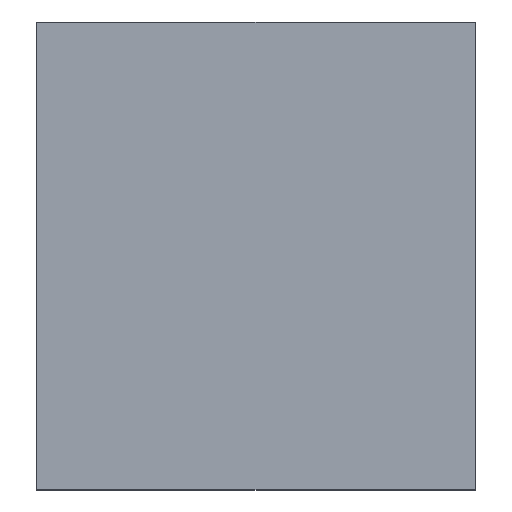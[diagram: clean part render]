
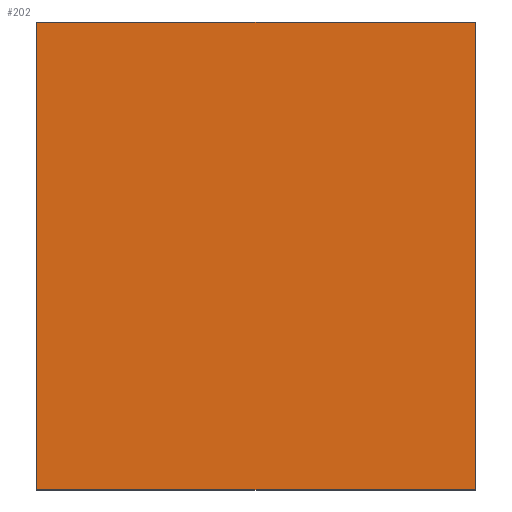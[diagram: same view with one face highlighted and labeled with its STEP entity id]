
A CAD part, top view. The second image highlights one B-rep face of the part: STEP entity #202.
In plain terms, the highlighted planar face has unit normal (0, 0, 1).
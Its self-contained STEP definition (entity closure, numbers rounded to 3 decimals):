
#9 = EDGE_CURVE ( 'NONE', #39, #41, #172, .T. ) ;
#12 = EDGE_CURVE ( 'NONE', #42, #39, #169, .T. ) ;
#13 = EDGE_CURVE ( 'NONE', #41, #43, #191, .T. ) ;
#15 = EDGE_CURVE ( 'NONE', #43, #42, #154, .T. ) ;
#29 = AXIS2_PLACEMENT_3D ( 'NONE', #124, #63, #62 ) ;
#39 = VERTEX_POINT ( 'NONE', #72 ) ;
#41 = VERTEX_POINT ( 'NONE', #71 ) ;
#42 = VERTEX_POINT ( 'NONE', #70 ) ;
#43 = VERTEX_POINT ( 'NONE', #69 ) ;
#62 = DIRECTION ( 'NONE',  ( 0., 1., 0. ) ) ;
#63 = DIRECTION ( 'NONE',  ( 0., 0., -1. ) ) ;
#69 = CARTESIAN_POINT ( 'NONE',  ( 201., 429., 6. ) ) ;
#70 = CARTESIAN_POINT ( 'NONE',  ( -201., 429., 6. ) ) ;
#71 = CARTESIAN_POINT ( 'NONE',  ( 201., 0., 6. ) ) ;
#72 = CARTESIAN_POINT ( 'NONE',  ( -201., 0., 6. ) ) ;
#89 = DIRECTION ( 'NONE',  ( -1., 0., 0. ) ) ;
#93 = DIRECTION ( 'NONE',  ( 0., 1., 0. ) ) ;
#94 = CARTESIAN_POINT ( 'NONE',  ( 201., 0., 6. ) ) ;
#95 = DIRECTION ( 'NONE',  ( 0., -1., 0. ) ) ;
#96 = CARTESIAN_POINT ( 'NONE',  ( -201., 0., 6. ) ) ;
#97 = DIRECTION ( 'NONE',  ( 1., 0., 0. ) ) ;
#104 = CARTESIAN_POINT ( 'NONE',  ( -201., 0., 6. ) ) ;
#114 = CARTESIAN_POINT ( 'NONE',  ( -201., 429., 6. ) ) ;
#121 = PLANE ( 'NONE',  #29 ) ;
#124 = CARTESIAN_POINT ( 'NONE',  ( -201., 429., 6. ) ) ;
#133 = VECTOR ( 'NONE', #95, 1000. ) ;
#137 = ORIENTED_EDGE ( 'NONE', *, *, #13, .T. ) ;
#147 = ORIENTED_EDGE ( 'NONE', *, *, #15, .T. ) ;
#148 = ORIENTED_EDGE ( 'NONE', *, *, #12, .T. ) ;
#150 = ORIENTED_EDGE ( 'NONE', *, *, #9, .T. ) ;
#154 = LINE ( 'NONE', #114, #163 ) ;
#158 = VECTOR ( 'NONE', #93, 1000. ) ;
#163 = VECTOR ( 'NONE', #89, 1000. ) ;
#166 = FACE_OUTER_BOUND ( 'NONE', #183, .T. ) ;
#169 = LINE ( 'NONE', #96, #133 ) ;
#172 = LINE ( 'NONE', #104, #187 ) ;
#183 = EDGE_LOOP ( 'NONE', ( #148, #150, #137, #147 ) ) ;
#187 = VECTOR ( 'NONE', #97, 1000. ) ;
#191 = LINE ( 'NONE', #94, #158 ) ;
#202 = ADVANCED_FACE ( 'NONE', ( #166 ), #121, .F. ) ;
